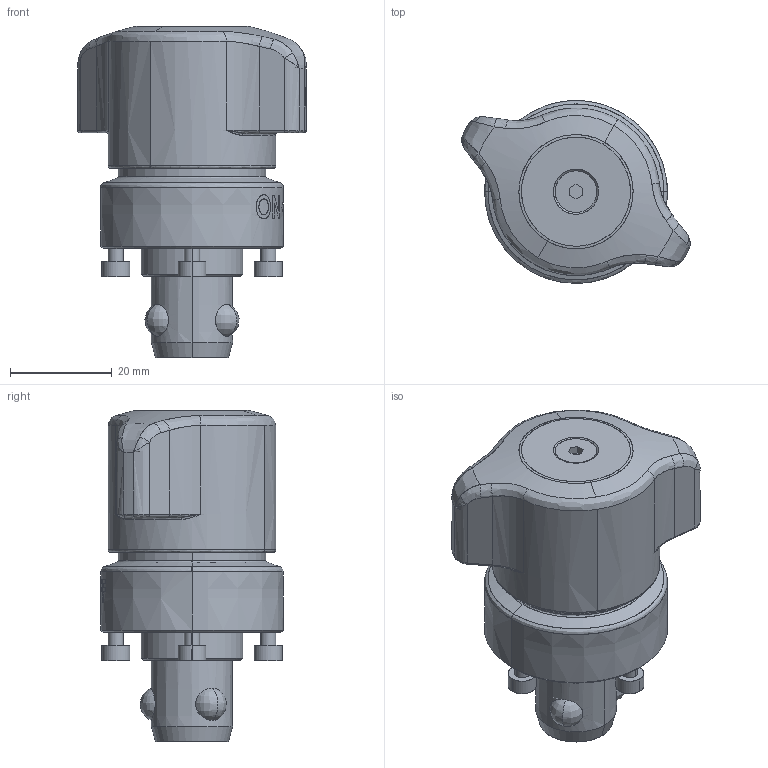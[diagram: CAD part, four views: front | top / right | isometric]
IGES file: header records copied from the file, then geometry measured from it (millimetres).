
Start section: SolidWorks IGES file using analytic representation for surfaces
Bounding box: 45 x 36 x 65.33 mm (x, y, z)
Surface area: 21502.1 mm2 (no closed solid volume)
Topology: 0 solids, 0 shells, 279 faces, 3636 edges, 3636 vertices
Faces by surface type: bspline 181, revolution 98
